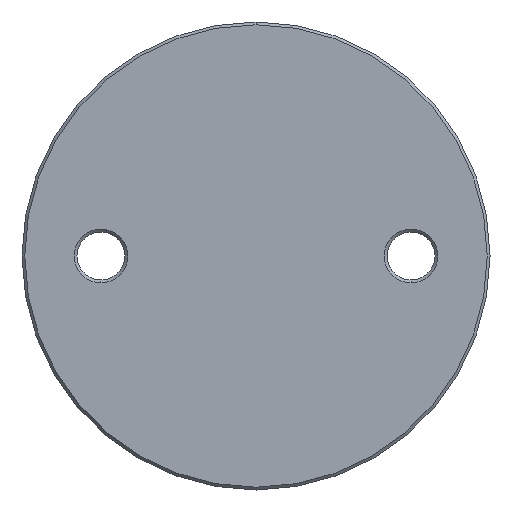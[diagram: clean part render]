
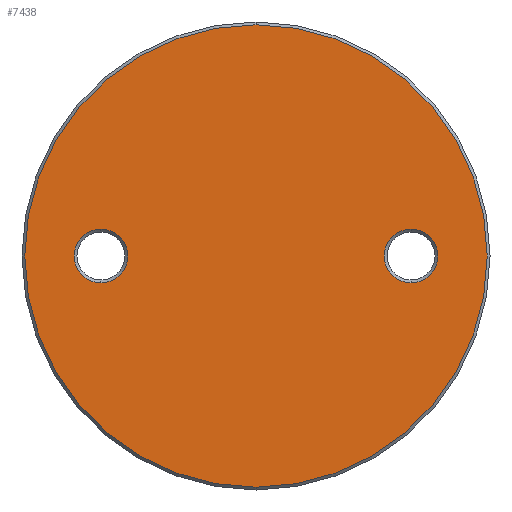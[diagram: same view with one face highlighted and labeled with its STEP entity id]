
A CAD part, front view. The second image highlights one B-rep face of the part: STEP entity #7438.
In plain terms, the highlighted planar face has unit normal (0, -1, 0).
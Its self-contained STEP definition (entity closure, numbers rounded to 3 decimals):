
#6 = EDGE_CURVE ( 'NONE', #5461, #943, #815, .T. ) ;
#75 = FACE_BOUND ( 'NONE', #1426, .T. ) ;
#85 = AXIS2_PLACEMENT_3D ( 'NONE', #7948, #5371, #1005 ) ;
#159 = CARTESIAN_POINT ( 'NONE',  ( -27.5, -3., -4.75 ) ) ;
#181 = DIRECTION ( 'NONE',  ( 0., 0., -1. ) ) ;
#183 = DIRECTION ( 'NONE',  ( 0., 0., -1. ) ) ;
#280 = EDGE_CURVE ( 'NONE', #2208, #964, #4549, .T. ) ;
#436 = ORIENTED_EDGE ( 'NONE', *, *, #280, .T. ) ;
#815 = CIRCLE ( 'NONE', #3727, 41. ) ;
#943 = VERTEX_POINT ( 'NONE', #1686 ) ;
#964 = VERTEX_POINT ( 'NONE', #2548 ) ;
#985 = PLANE ( 'NONE',  #85 ) ;
#1005 = DIRECTION ( 'NONE',  ( 0., 0., -1. ) ) ;
#1426 = EDGE_LOOP ( 'NONE', ( #436, #3391 ) ) ;
#1458 = DIRECTION ( 'NONE',  ( 0., 1., 0. ) ) ;
#1686 = CARTESIAN_POINT ( 'NONE',  ( 0., -3., 41. ) ) ;
#2124 = CARTESIAN_POINT ( 'NONE',  ( 27.5, -3., 0. ) ) ;
#2150 = AXIS2_PLACEMENT_3D ( 'NONE', #6290, #3791, #5665 ) ;
#2208 = VERTEX_POINT ( 'NONE', #159 ) ;
#2548 = CARTESIAN_POINT ( 'NONE',  ( -27.5, -3., 4.75 ) ) ;
#2550 = CIRCLE ( 'NONE', #7039, 4.75 ) ;
#3156 = EDGE_CURVE ( 'NONE', #4137, #7077, #6658, .T. ) ;
#3192 = ORIENTED_EDGE ( 'NONE', *, *, #6833, .T. ) ;
#3326 = CARTESIAN_POINT ( 'NONE',  ( 0., -3., 0. ) ) ;
#3368 = DIRECTION ( 'NONE',  ( 0., 1., 0. ) ) ;
#3391 = ORIENTED_EDGE ( 'NONE', *, *, #6932, .T. ) ;
#3487 = ORIENTED_EDGE ( 'NONE', *, *, #6292, .T. ) ;
#3722 = FACE_BOUND ( 'NONE', #6490, .T. ) ;
#3727 = AXIS2_PLACEMENT_3D ( 'NONE', #3326, #7733, #183 ) ;
#3791 = DIRECTION ( 'NONE',  ( 0., 1., 0. ) ) ;
#4052 = EDGE_LOOP ( 'NONE', ( #3487, #4761 ) ) ;
#4137 = VERTEX_POINT ( 'NONE', #5310 ) ;
#4549 = CIRCLE ( 'NONE', #2150, 4.75 ) ;
#4761 = ORIENTED_EDGE ( 'NONE', *, *, #6, .T. ) ;
#4781 = CARTESIAN_POINT ( 'NONE',  ( -27.5, -3., 0. ) ) ;
#5025 = AXIS2_PLACEMENT_3D ( 'NONE', #2124, #7765, #6479 ) ;
#5310 = CARTESIAN_POINT ( 'NONE',  ( 27.5, -3., -4.75 ) ) ;
#5371 = DIRECTION ( 'NONE',  ( 0., -1., 0. ) ) ;
#5461 = VERTEX_POINT ( 'NONE', #7122 ) ;
#5665 = DIRECTION ( 'NONE',  ( 0., 0., -1. ) ) ;
#5827 = CARTESIAN_POINT ( 'NONE',  ( 27.5, -3., 0. ) ) ;
#5982 = DIRECTION ( 'NONE',  ( 0., -1., 0. ) ) ;
#6290 = CARTESIAN_POINT ( 'NONE',  ( -27.5, -3., 0. ) ) ;
#6292 = EDGE_CURVE ( 'NONE', #943, #5461, #6502, .T. ) ;
#6336 = ORIENTED_EDGE ( 'NONE', *, *, #3156, .T. ) ;
#6479 = DIRECTION ( 'NONE',  ( 0., 0., -1. ) ) ;
#6490 = EDGE_LOOP ( 'NONE', ( #6336, #3192 ) ) ;
#6502 = CIRCLE ( 'NONE', #7824, 41. ) ;
#6658 = CIRCLE ( 'NONE', #5025, 4.75 ) ;
#6833 = EDGE_CURVE ( 'NONE', #7077, #4137, #7970, .T. ) ;
#6897 = CARTESIAN_POINT ( 'NONE',  ( 27.5, -3., 4.75 ) ) ;
#6932 = EDGE_CURVE ( 'NONE', #964, #2208, #2550, .T. ) ;
#6971 = FACE_OUTER_BOUND ( 'NONE', #4052, .T. ) ;
#7039 = AXIS2_PLACEMENT_3D ( 'NONE', #4781, #1458, #7111 ) ;
#7077 = VERTEX_POINT ( 'NONE', #6897 ) ;
#7111 = DIRECTION ( 'NONE',  ( 0., 0., -1. ) ) ;
#7122 = CARTESIAN_POINT ( 'NONE',  ( 0., -3., -41. ) ) ;
#7273 = CARTESIAN_POINT ( 'NONE',  ( 0., -3., 0. ) ) ;
#7438 = ADVANCED_FACE ( 'NONE', ( #3722, #75, #6971 ), #985, .T. ) ;
#7733 = DIRECTION ( 'NONE',  ( 0., -1., 0. ) ) ;
#7734 = AXIS2_PLACEMENT_3D ( 'NONE', #5827, #3368, #181 ) ;
#7765 = DIRECTION ( 'NONE',  ( 0., 1., 0. ) ) ;
#7824 = AXIS2_PLACEMENT_3D ( 'NONE', #7273, #5982, #7887 ) ;
#7887 = DIRECTION ( 'NONE',  ( 0., 0., -1. ) ) ;
#7948 = CARTESIAN_POINT ( 'NONE',  ( 0., -3., 41.5 ) ) ;
#7970 = CIRCLE ( 'NONE', #7734, 4.75 ) ;
